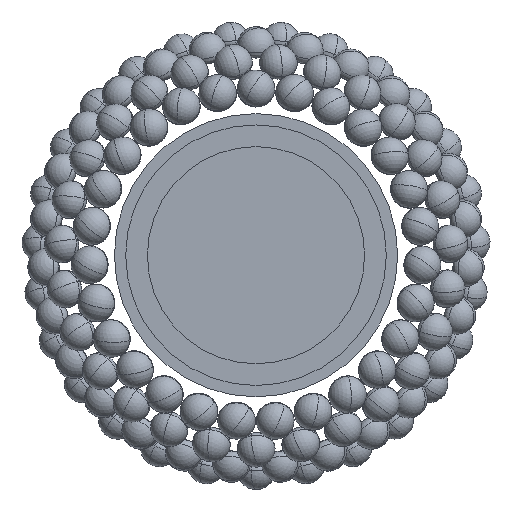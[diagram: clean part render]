
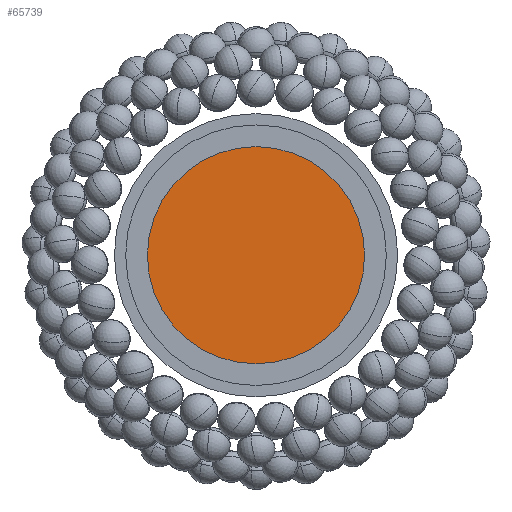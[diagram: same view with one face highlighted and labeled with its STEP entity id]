
A CAD part, front view. The second image highlights one B-rep face of the part: STEP entity #65739.
In plain terms, the highlighted planar face has unit normal (0, -1, 0).
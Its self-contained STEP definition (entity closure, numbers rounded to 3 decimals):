
#2488 = CARTESIAN_POINT ( 'NONE',  ( 0., 0., 115. ) ) ;
#4516 = DIRECTION ( 'NONE',  ( 0., 1., 0. ) ) ;
#11863 = EDGE_LOOP ( 'NONE', ( #61419, #72402 ) ) ;
#16500 = DIRECTION ( 'NONE',  ( 0., 0., 1. ) ) ;
#16690 = AXIS2_PLACEMENT_3D ( 'NONE', #40641, #50902, #16500 ) ;
#17213 = AXIS2_PLACEMENT_3D ( 'NONE', #21838, #4516, #60833 ) ;
#21838 = CARTESIAN_POINT ( 'NONE',  ( 0., 0., 0. ) ) ;
#27340 = VERTEX_POINT ( 'NONE', #2488 ) ;
#36733 = EDGE_CURVE ( 'NONE', #54493, #27340, #44935, .T. ) ;
#40641 = CARTESIAN_POINT ( 'NONE',  ( 0., 0., 0. ) ) ;
#41462 = CARTESIAN_POINT ( 'NONE',  ( 0., 0., -115. ) ) ;
#44935 = CIRCLE ( 'NONE', #17213, 115. ) ;
#45794 = DIRECTION ( 'NONE',  ( 0., 1., 0. ) ) ;
#48575 = CIRCLE ( 'NONE', #51049, 115. ) ;
#50902 = DIRECTION ( 'NONE',  ( 0., 1., 0. ) ) ;
#51049 = AXIS2_PLACEMENT_3D ( 'NONE', #74593, #45794, #68882 ) ;
#54493 = VERTEX_POINT ( 'NONE', #41462 ) ;
#56616 = FACE_OUTER_BOUND ( 'NONE', #11863, .T. ) ;
#57704 = PLANE ( 'NONE',  #16690 ) ;
#60833 = DIRECTION ( 'NONE',  ( 0., 0., 1. ) ) ;
#61419 = ORIENTED_EDGE ( 'NONE', *, *, #72643, .F. ) ;
#65739 = ADVANCED_FACE ( 'NONE', ( #56616 ), #57704, .F. ) ;
#68882 = DIRECTION ( 'NONE',  ( 0., 0., 1. ) ) ;
#72402 = ORIENTED_EDGE ( 'NONE', *, *, #36733, .F. ) ;
#72643 = EDGE_CURVE ( 'NONE', #27340, #54493, #48575, .T. ) ;
#74593 = CARTESIAN_POINT ( 'NONE',  ( 0., 0., 0. ) ) ;
